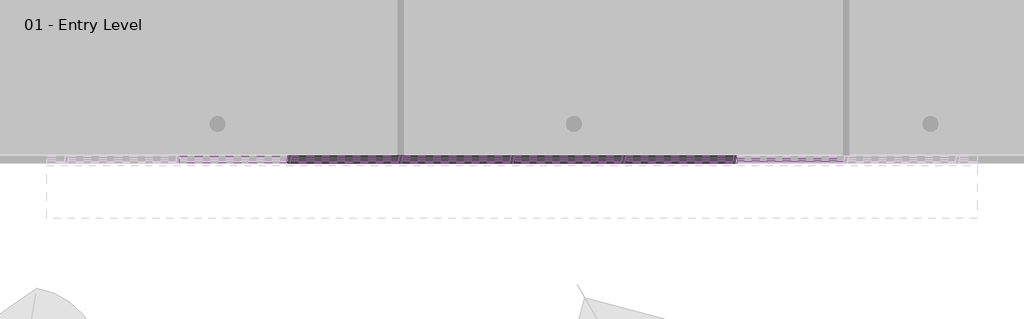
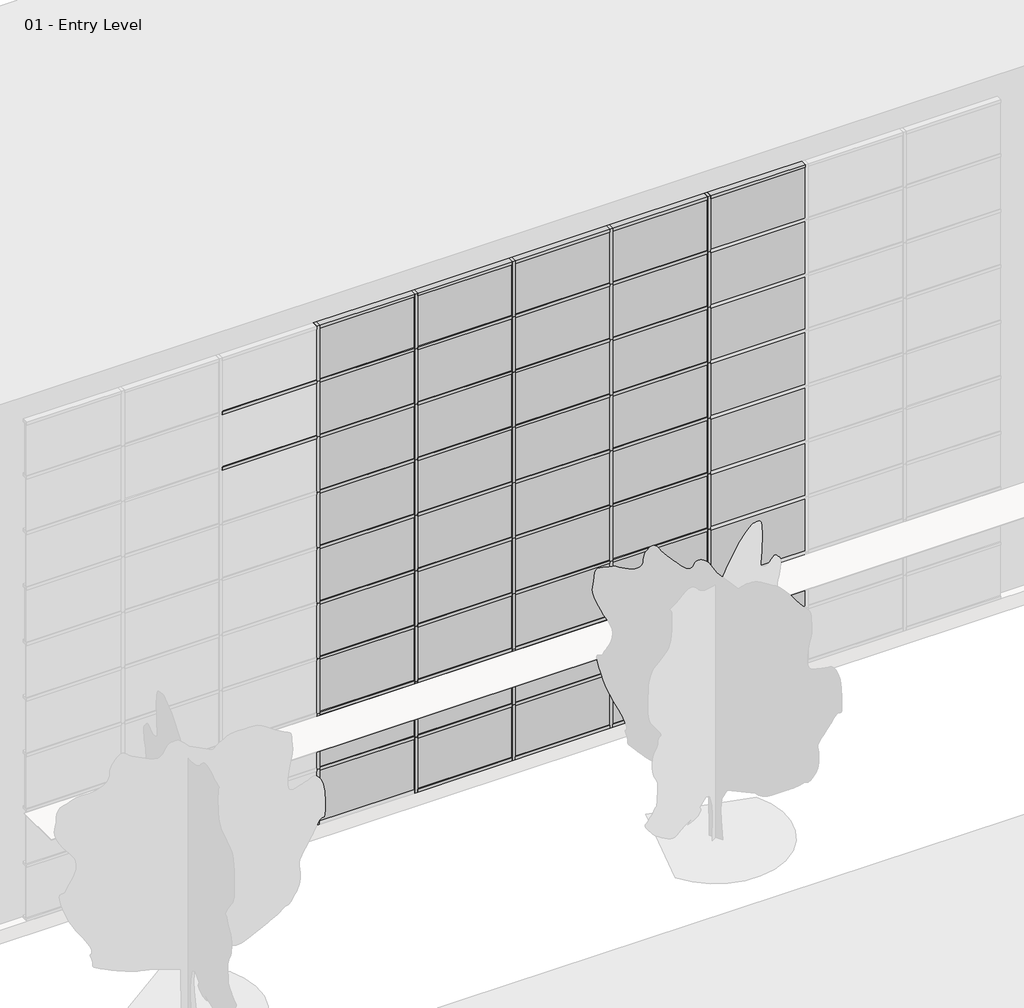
# One storey, part 3 of 34: 88 members, 45 plates.
"""IFC4 building model written with IfcOpenShell, lengths in millimetres."""

from ifc_helpers import new_model, si_unit, origin, place, context, project, spatial, transform, mapped, element, save
from components import member_2b49869a, member_391b434c, member_9e90ae50, system_panel_glazed_1b9d6098, system_panel_glazed_70da479d, system_panel_solid_b376696c, system_panel_solid_77e8b053

model = new_model("IFC4")

# Units and contexts
model_context = context("Model", 3, world=origin())
ifc_project = project(units=[si_unit("LENGTHUNIT", "METRE", prefix="MILLI")], contexts=[model_context])

# Site, building, storey
site = spatial("IfcSite", under=ifc_project)
building = spatial("IfcBuilding", under=site)
storey = spatial("IfcBuildingStorey", under=building, Name="01 - Entry Level", Elevation=0.0)

# Members
placement = place(None, origin())
member_shape = member_2b49869a(model_context)
element("IfcMember", 1, ObjectType="Rectangular Mullion : 2.5\" x 5\" rectangular", at=placement, inside=storey, context=model_context, shape_type="MappedRepresentation", body=[
    mapped(member_shape, transform((30595.2207476, -47.7, 9753.6), x_axis=(1.0, 0.0, 0.0), y_axis=(0.0, -1.0, 0.0), z_axis=(0.0, 0.0, -1.0))),
])
element("IfcMember", 2, ObjectType="Rectangular Mullion : 2.5\" x 5\" rectangular", at=placement, inside=storey, context=model_context, shape_type="MappedRepresentation", body=[
    mapped(member_shape, transform((32627.2207476, -47.7, 9753.6), x_axis=(1.0, 0.0, 0.0), y_axis=(0.0, -1.0, 0.0), z_axis=(0.0, 0.0, -1.0))),
])
element("IfcMember", 3, ObjectType="Rectangular Mullion : 2.5\" x 5\" rectangular", at=placement, inside=storey, context=model_context, shape_type="MappedRepresentation", body=[
    mapped(member_shape, transform((34659.2207476, -47.7, 9753.6), x_axis=(1.0, 0.0, 0.0), y_axis=(0.0, -1.0, 0.0), z_axis=(0.0, 0.0, -1.0))),
])
element("IfcMember", 4, ObjectType="Rectangular Mullion : 2.5\" x 5\" rectangular", at=placement, inside=storey, context=model_context, shape_type="MappedRepresentation", body=[
    mapped(member_shape, transform((36691.2207476, -47.7, 9753.6), x_axis=(1.0, 0.0, 0.0), y_axis=(0.0, -1.0, 0.0), z_axis=(0.0, 0.0, -1.0))),
])
element("IfcMember", 5, ObjectType="Rectangular Mullion : 2.5\" x 5\" rectangular", at=placement, inside=storey, context=model_context, shape_type="MappedRepresentation", body=[
    mapped(member_shape, transform((38723.2207476, -47.7, 9753.6), x_axis=(1.0, 0.0, 0.0), y_axis=(0.0, -1.0, 0.0), z_axis=(0.0, 0.0, -1.0))),
])
member_2_shape = member_391b434c(model_context)
element("IfcMember", 6, ObjectType="Rectangular Mullion : 2.5\" x 5\" rectangular", at=placement, inside=storey, context=model_context, shape_type="MappedRepresentation", body=[
    mapped(member_2_shape, transform((32595.4707476, -47.7, 10972.8), x_axis=(0.0, 0.0, 1.0), y_axis=(0.0, -1.0, 0.0), z_axis=(1.0, 0.0, 0.0))),
])
element("IfcMember", 7, ObjectType="Rectangular Mullion : 2.5\" x 5\" rectangular", at=placement, inside=storey, context=model_context, shape_type="MappedRepresentation", body=[
    mapped(member_2_shape, transform((34627.4707476, -47.7, 10972.8), x_axis=(0.0, 0.0, 1.0), y_axis=(0.0, -1.0, 0.0), z_axis=(1.0, 0.0, 0.0))),
])
element("IfcMember", 8, ObjectType="Rectangular Mullion : 2.5\" x 5\" rectangular", at=placement, inside=storey, context=model_context, shape_type="MappedRepresentation", body=[
    mapped(member_2_shape, transform((36659.4707476, -47.7, 10972.8), x_axis=(0.0, 0.0, 1.0), y_axis=(0.0, -1.0, 0.0), z_axis=(1.0, 0.0, 0.0))),
])
element("IfcMember", 9, ObjectType="Rectangular Mullion : 2.5\" x 5\" rectangular", at=placement, inside=storey, context=model_context, shape_type="MappedRepresentation", body=[
    mapped(member_2_shape, transform((38691.4707476, -47.7, 10972.8), x_axis=(0.0, 0.0, 1.0), y_axis=(0.0, -1.0, 0.0), z_axis=(1.0, 0.0, 0.0))),
])
element("IfcMember", 10, ObjectType="Rectangular Mullion : 2.5\" x 5\" rectangular", at=placement, inside=storey, context=model_context, shape_type="MappedRepresentation", body=[
    mapped(member_2_shape, transform((40723.4707476, -47.7, 10972.8), x_axis=(0.0, 0.0, 1.0), y_axis=(0.0, -1.0, 0.0), z_axis=(1.0, 0.0, 0.0))),
])
element("IfcMember", 11, ObjectType="Rectangular Mullion : 2.5\" x 5\" rectangular", at=placement, inside=storey, context=model_context, shape_type="MappedRepresentation", body=[
    mapped(member_2_shape, transform((32658.9707476, -47.7, 0.0), x_axis=(0.0, 0.0, -1.0), y_axis=(0.0, -1.0, 0.0), z_axis=(-1.0, 0.0, 0.0))),
])
element("IfcMember", 12, ObjectType="Rectangular Mullion : 2.5\" x 5\" rectangular", at=placement, inside=storey, context=model_context, shape_type="MappedRepresentation", body=[
    mapped(member_2_shape, transform((34690.9707476, -47.7, 0.0), x_axis=(0.0, 0.0, -1.0), y_axis=(0.0, -1.0, 0.0), z_axis=(-1.0, 0.0, 0.0))),
])
element("IfcMember", 13, ObjectType="Rectangular Mullion : 2.5\" x 5\" rectangular", at=placement, inside=storey, context=model_context, shape_type="MappedRepresentation", body=[
    mapped(member_2_shape, transform((36722.9707476, -47.7, 0.0), x_axis=(0.0, 0.0, -1.0), y_axis=(0.0, -1.0, 0.0), z_axis=(-1.0, 0.0, 0.0))),
])
element("IfcMember", 14, ObjectType="Rectangular Mullion : 2.5\" x 5\" rectangular", at=placement, inside=storey, context=model_context, shape_type="MappedRepresentation", body=[
    mapped(member_2_shape, transform((38754.9707476, -47.7, 0.0), x_axis=(0.0, 0.0, -1.0), y_axis=(0.0, -1.0, 0.0), z_axis=(-1.0, 0.0, 0.0))),
])
member_3_shape = member_9e90ae50(model_context)
element("IfcMember", 15, ObjectType="Rectangular Mullion : 2.5\" x 5\" rectangular", at=placement, inside=storey, context=model_context, shape_type="MappedRepresentation", body=[
    mapped(member_3_shape, transform((32595.4707476, -47.7, 1219.2), x_axis=(0.0, 0.0, 1.0), y_axis=(0.0, -1.0, 0.0), z_axis=(1.0, 0.0, 0.0))),
])
element("IfcMember", 16, ObjectType="Rectangular Mullion : 2.5\" x 5\" rectangular", at=placement, inside=storey, context=model_context, shape_type="MappedRepresentation", body=[
    mapped(member_3_shape, transform((34627.4707476, -47.7, 1219.2), x_axis=(0.0, 0.0, 1.0), y_axis=(0.0, -1.0, 0.0), z_axis=(1.0, 0.0, 0.0))),
])
element("IfcMember", 17, ObjectType="Rectangular Mullion : 2.5\" x 5\" rectangular", at=placement, inside=storey, context=model_context, shape_type="MappedRepresentation", body=[
    mapped(member_3_shape, transform((36659.4707476, -47.7, 1219.2), x_axis=(0.0, 0.0, 1.0), y_axis=(0.0, -1.0, 0.0), z_axis=(1.0, 0.0, 0.0))),
])
element("IfcMember", 18, ObjectType="Rectangular Mullion : 2.5\" x 5\" rectangular", at=placement, inside=storey, context=model_context, shape_type="MappedRepresentation", body=[
    mapped(member_3_shape, transform((38691.4707476, -47.7, 1219.2), x_axis=(0.0, 0.0, 1.0), y_axis=(0.0, -1.0, 0.0), z_axis=(1.0, 0.0, 0.0))),
])
element("IfcMember", 19, ObjectType="Rectangular Mullion : 2.5\" x 5\" rectangular", at=placement, inside=storey, context=model_context, shape_type="MappedRepresentation", body=[
    mapped(member_3_shape, transform((32595.4707476, -47.7, 2438.4), x_axis=(0.0, 0.0, 1.0), y_axis=(0.0, -1.0, 0.0), z_axis=(1.0, 0.0, 0.0))),
])
element("IfcMember", 20, ObjectType="Rectangular Mullion : 2.5\" x 5\" rectangular", at=placement, inside=storey, context=model_context, shape_type="MappedRepresentation", body=[
    mapped(member_3_shape, transform((34627.4707476, -47.7, 2438.4), x_axis=(0.0, 0.0, 1.0), y_axis=(0.0, -1.0, 0.0), z_axis=(1.0, 0.0, 0.0))),
])
element("IfcMember", 21, ObjectType="Rectangular Mullion : 2.5\" x 5\" rectangular", at=placement, inside=storey, context=model_context, shape_type="MappedRepresentation", body=[
    mapped(member_3_shape, transform((36659.4707476, -47.7, 2438.4), x_axis=(0.0, 0.0, 1.0), y_axis=(0.0, -1.0, 0.0), z_axis=(1.0, 0.0, 0.0))),
])
element("IfcMember", 22, ObjectType="Rectangular Mullion : 2.5\" x 5\" rectangular", at=placement, inside=storey, context=model_context, shape_type="MappedRepresentation", body=[
    mapped(member_3_shape, transform((38691.4707476, -47.7, 2438.4), x_axis=(0.0, 0.0, 1.0), y_axis=(0.0, -1.0, 0.0), z_axis=(1.0, 0.0, 0.0))),
])
element("IfcMember", 23, ObjectType="Rectangular Mullion : 2.5\" x 5\" rectangular", at=placement, inside=storey, context=model_context, shape_type="MappedRepresentation", body=[
    mapped(member_3_shape, transform((32595.4707476, -47.7, 3657.6), x_axis=(0.0, 0.0, 1.0), y_axis=(0.0, -1.0, 0.0), z_axis=(1.0, 0.0, 0.0))),
])
element("IfcMember", 24, ObjectType="Rectangular Mullion : 2.5\" x 5\" rectangular", at=placement, inside=storey, context=model_context, shape_type="MappedRepresentation", body=[
    mapped(member_3_shape, transform((34627.4707476, -47.7, 3657.6), x_axis=(0.0, 0.0, 1.0), y_axis=(0.0, -1.0, 0.0), z_axis=(1.0, 0.0, 0.0))),
])
element("IfcMember", 25, ObjectType="Rectangular Mullion : 2.5\" x 5\" rectangular", at=placement, inside=storey, context=model_context, shape_type="MappedRepresentation", body=[
    mapped(member_3_shape, transform((36659.4707476, -47.7, 3657.6), x_axis=(0.0, 0.0, 1.0), y_axis=(0.0, -1.0, 0.0), z_axis=(1.0, 0.0, 0.0))),
])
element("IfcMember", 26, ObjectType="Rectangular Mullion : 2.5\" x 5\" rectangular", at=placement, inside=storey, context=model_context, shape_type="MappedRepresentation", body=[
    mapped(member_3_shape, transform((38691.4707476, -47.7, 3657.6), x_axis=(0.0, 0.0, 1.0), y_axis=(0.0, -1.0, 0.0), z_axis=(1.0, 0.0, 0.0))),
])
element("IfcMember", 27, ObjectType="Rectangular Mullion : 2.5\" x 5\" rectangular", at=placement, inside=storey, context=model_context, shape_type="MappedRepresentation", body=[
    mapped(member_3_shape, transform((32595.4707476, -47.7, 4876.8), x_axis=(0.0, 0.0, 1.0), y_axis=(0.0, -1.0, 0.0), z_axis=(1.0, 0.0, 0.0))),
])
element("IfcMember", 28, ObjectType="Rectangular Mullion : 2.5\" x 5\" rectangular", at=placement, inside=storey, context=model_context, shape_type="MappedRepresentation", body=[
    mapped(member_3_shape, transform((34627.4707476, -47.7, 4876.8), x_axis=(0.0, 0.0, 1.0), y_axis=(0.0, -1.0, 0.0), z_axis=(1.0, 0.0, 0.0))),
])
element("IfcMember", 29, ObjectType="Rectangular Mullion : 2.5\" x 5\" rectangular", at=placement, inside=storey, context=model_context, shape_type="MappedRepresentation", body=[
    mapped(member_3_shape, transform((36659.4707476, -47.7, 4876.8), x_axis=(0.0, 0.0, 1.0), y_axis=(0.0, -1.0, 0.0), z_axis=(1.0, 0.0, 0.0))),
])
element("IfcMember", 30, ObjectType="Rectangular Mullion : 2.5\" x 5\" rectangular", at=placement, inside=storey, context=model_context, shape_type="MappedRepresentation", body=[
    mapped(member_3_shape, transform((38691.4707476, -47.7, 4876.8), x_axis=(0.0, 0.0, 1.0), y_axis=(0.0, -1.0, 0.0), z_axis=(1.0, 0.0, 0.0))),
])
element("IfcMember", 31, ObjectType="Rectangular Mullion : 2.5\" x 5\" rectangular", at=placement, inside=storey, context=model_context, shape_type="MappedRepresentation", body=[
    mapped(member_3_shape, transform((32595.4707476, -47.7, 6096.0), x_axis=(0.0, 0.0, 1.0), y_axis=(0.0, -1.0, 0.0), z_axis=(1.0, 0.0, 0.0))),
])
element("IfcMember", 32, ObjectType="Rectangular Mullion : 2.5\" x 5\" rectangular", at=placement, inside=storey, context=model_context, shape_type="MappedRepresentation", body=[
    mapped(member_3_shape, transform((34627.4707476, -47.7, 6096.0), x_axis=(0.0, 0.0, 1.0), y_axis=(0.0, -1.0, 0.0), z_axis=(1.0, 0.0, 0.0))),
])
element("IfcMember", 33, ObjectType="Rectangular Mullion : 2.5\" x 5\" rectangular", at=placement, inside=storey, context=model_context, shape_type="MappedRepresentation", body=[
    mapped(member_3_shape, transform((36659.4707476, -47.7, 6096.0), x_axis=(0.0, 0.0, 1.0), y_axis=(0.0, -1.0, 0.0), z_axis=(1.0, 0.0, 0.0))),
])
element("IfcMember", 34, ObjectType="Rectangular Mullion : 2.5\" x 5\" rectangular", at=placement, inside=storey, context=model_context, shape_type="MappedRepresentation", body=[
    mapped(member_3_shape, transform((38691.4707476, -47.7, 6096.0), x_axis=(0.0, 0.0, 1.0), y_axis=(0.0, -1.0, 0.0), z_axis=(1.0, 0.0, 0.0))),
])
element("IfcMember", 35, ObjectType="Rectangular Mullion : 2.5\" x 5\" rectangular", at=placement, inside=storey, context=model_context, shape_type="MappedRepresentation", body=[
    mapped(member_3_shape, transform((32595.4707476, -47.7, 7315.2), x_axis=(0.0, 0.0, 1.0), y_axis=(0.0, -1.0, 0.0), z_axis=(1.0, 0.0, 0.0))),
])
element("IfcMember", 36, ObjectType="Rectangular Mullion : 2.5\" x 5\" rectangular", at=placement, inside=storey, context=model_context, shape_type="MappedRepresentation", body=[
    mapped(member_3_shape, transform((34627.4707476, -47.7, 7315.2), x_axis=(0.0, 0.0, 1.0), y_axis=(0.0, -1.0, 0.0), z_axis=(1.0, 0.0, 0.0))),
])
element("IfcMember", 37, ObjectType="Rectangular Mullion : 2.5\" x 5\" rectangular", at=placement, inside=storey, context=model_context, shape_type="MappedRepresentation", body=[
    mapped(member_3_shape, transform((36659.4707476, -47.7, 7315.2), x_axis=(0.0, 0.0, 1.0), y_axis=(0.0, -1.0, 0.0), z_axis=(1.0, 0.0, 0.0))),
])
element("IfcMember", 38, ObjectType="Rectangular Mullion : 2.5\" x 5\" rectangular", at=placement, inside=storey, context=model_context, shape_type="MappedRepresentation", body=[
    mapped(member_3_shape, transform((38691.4707476, -47.7, 7315.2), x_axis=(0.0, 0.0, 1.0), y_axis=(0.0, -1.0, 0.0), z_axis=(1.0, 0.0, 0.0))),
])
element("IfcMember", 39, ObjectType="Rectangular Mullion : 2.5\" x 5\" rectangular", at=placement, inside=storey, context=model_context, shape_type="MappedRepresentation", body=[
    mapped(member_3_shape, transform((30563.4707476, -47.7, 8534.4), x_axis=(0.0, 0.0, 1.0), y_axis=(0.0, -1.0, 0.0), z_axis=(1.0, 0.0, 0.0))),
])
element("IfcMember", 40, ObjectType="Rectangular Mullion : 2.5\" x 5\" rectangular", at=placement, inside=storey, context=model_context, shape_type="MappedRepresentation", body=[
    mapped(member_3_shape, transform((32595.4707476, -47.7, 8534.4), x_axis=(0.0, 0.0, 1.0), y_axis=(0.0, -1.0, 0.0), z_axis=(1.0, 0.0, 0.0))),
])
element("IfcMember", 41, ObjectType="Rectangular Mullion : 2.5\" x 5\" rectangular", at=placement, inside=storey, context=model_context, shape_type="MappedRepresentation", body=[
    mapped(member_3_shape, transform((34627.4707476, -47.7, 8534.4), x_axis=(0.0, 0.0, 1.0), y_axis=(0.0, -1.0, 0.0), z_axis=(1.0, 0.0, 0.0))),
])
element("IfcMember", 42, ObjectType="Rectangular Mullion : 2.5\" x 5\" rectangular", at=placement, inside=storey, context=model_context, shape_type="MappedRepresentation", body=[
    mapped(member_3_shape, transform((36659.4707476, -47.7, 8534.4), x_axis=(0.0, 0.0, 1.0), y_axis=(0.0, -1.0, 0.0), z_axis=(1.0, 0.0, 0.0))),
])
element("IfcMember", 43, ObjectType="Rectangular Mullion : 2.5\" x 5\" rectangular", at=placement, inside=storey, context=model_context, shape_type="MappedRepresentation", body=[
    mapped(member_3_shape, transform((38691.4707476, -47.7, 8534.4), x_axis=(0.0, 0.0, 1.0), y_axis=(0.0, -1.0, 0.0), z_axis=(1.0, 0.0, 0.0))),
])
element("IfcMember", 44, ObjectType="Rectangular Mullion : 2.5\" x 5\" rectangular", at=placement, inside=storey, context=model_context, shape_type="MappedRepresentation", body=[
    mapped(member_3_shape, transform((30563.4707476, -47.7, 9753.6), x_axis=(0.0, 0.0, 1.0), y_axis=(0.0, -1.0, 0.0), z_axis=(1.0, 0.0, 0.0))),
])
element("IfcMember", 45, ObjectType="Rectangular Mullion : 2.5\" x 5\" rectangular", at=placement, inside=storey, context=model_context, shape_type="MappedRepresentation", body=[
    mapped(member_3_shape, transform((32595.4707476, -47.7, 9753.6), x_axis=(0.0, 0.0, 1.0), y_axis=(0.0, -1.0, 0.0), z_axis=(1.0, 0.0, 0.0))),
])
element("IfcMember", 46, ObjectType="Rectangular Mullion : 2.5\" x 5\" rectangular", at=placement, inside=storey, context=model_context, shape_type="MappedRepresentation", body=[
    mapped(member_3_shape, transform((34627.4707476, -47.7, 9753.6), x_axis=(0.0, 0.0, 1.0), y_axis=(0.0, -1.0, 0.0), z_axis=(1.0, 0.0, 0.0))),
])
element("IfcMember", 47, ObjectType="Rectangular Mullion : 2.5\" x 5\" rectangular", at=placement, inside=storey, context=model_context, shape_type="MappedRepresentation", body=[
    mapped(member_3_shape, transform((36659.4707476, -47.7, 9753.6), x_axis=(0.0, 0.0, 1.0), y_axis=(0.0, -1.0, 0.0), z_axis=(1.0, 0.0, 0.0))),
])
element("IfcMember", 48, ObjectType="Rectangular Mullion : 2.5\" x 5\" rectangular", at=placement, inside=storey, context=model_context, shape_type="MappedRepresentation", body=[
    mapped(member_3_shape, transform((38691.4707476, -47.7, 9753.6), x_axis=(0.0, 0.0, 1.0), y_axis=(0.0, -1.0, 0.0), z_axis=(1.0, 0.0, 0.0))),
])
element("IfcMember", 49, ObjectType="Rectangular Mullion : 2.5\" x 5\" rectangular", at=placement, inside=storey, context=model_context, shape_type="MappedRepresentation", body=[
    mapped(member_shape, transform((30595.2207476, -47.7, 0.0), x_axis=(1.0, 0.0, 0.0), y_axis=(0.0, -1.0, 0.0), z_axis=(0.0, 0.0, -1.0))),
])
element("IfcMember", 50, ObjectType="Rectangular Mullion : 2.5\" x 5\" rectangular", at=placement, inside=storey, context=model_context, shape_type="MappedRepresentation", body=[
    mapped(member_shape, transform((32627.2207476, -47.7, 0.0), x_axis=(1.0, 0.0, 0.0), y_axis=(0.0, -1.0, 0.0), z_axis=(0.0, 0.0, -1.0))),
])
element("IfcMember", 51, ObjectType="Rectangular Mullion : 2.5\" x 5\" rectangular", at=placement, inside=storey, context=model_context, shape_type="MappedRepresentation", body=[
    mapped(member_shape, transform((34659.2207476, -47.7, 0.0), x_axis=(1.0, 0.0, 0.0), y_axis=(0.0, -1.0, 0.0), z_axis=(0.0, 0.0, -1.0))),
])
element("IfcMember", 52, ObjectType="Rectangular Mullion : 2.5\" x 5\" rectangular", at=placement, inside=storey, context=model_context, shape_type="MappedRepresentation", body=[
    mapped(member_shape, transform((36691.2207476, -47.7, 0.0), x_axis=(1.0, 0.0, 0.0), y_axis=(0.0, -1.0, 0.0), z_axis=(0.0, 0.0, -1.0))),
])
element("IfcMember", 53, ObjectType="Rectangular Mullion : 2.5\" x 5\" rectangular", at=placement, inside=storey, context=model_context, shape_type="MappedRepresentation", body=[
    mapped(member_shape, transform((38723.2207476, -47.7, 0.0), x_axis=(1.0, 0.0, 0.0), y_axis=(0.0, -1.0, 0.0), z_axis=(0.0, 0.0, -1.0))),
])
element("IfcMember", 54, ObjectType="Rectangular Mullion : 2.5\" x 5\" rectangular", at=placement, inside=storey, context=model_context, shape_type="MappedRepresentation", body=[
    mapped(member_shape, transform((30595.2207476, -47.7, 1219.2), x_axis=(1.0, 0.0, 0.0), y_axis=(0.0, -1.0, 0.0), z_axis=(0.0, 0.0, -1.0))),
])
element("IfcMember", 55, ObjectType="Rectangular Mullion : 2.5\" x 5\" rectangular", at=placement, inside=storey, context=model_context, shape_type="MappedRepresentation", body=[
    mapped(member_shape, transform((32627.2207476, -47.7, 1219.2), x_axis=(1.0, 0.0, 0.0), y_axis=(0.0, -1.0, 0.0), z_axis=(0.0, 0.0, -1.0))),
])
element("IfcMember", 56, ObjectType="Rectangular Mullion : 2.5\" x 5\" rectangular", at=placement, inside=storey, context=model_context, shape_type="MappedRepresentation", body=[
    mapped(member_shape, transform((34659.2207476, -47.7, 1219.2), x_axis=(1.0, 0.0, 0.0), y_axis=(0.0, -1.0, 0.0), z_axis=(0.0, 0.0, -1.0))),
])
element("IfcMember", 57, ObjectType="Rectangular Mullion : 2.5\" x 5\" rectangular", at=placement, inside=storey, context=model_context, shape_type="MappedRepresentation", body=[
    mapped(member_shape, transform((36691.2207476, -47.7, 1219.2), x_axis=(1.0, 0.0, 0.0), y_axis=(0.0, -1.0, 0.0), z_axis=(0.0, 0.0, -1.0))),
])
element("IfcMember", 58, ObjectType="Rectangular Mullion : 2.5\" x 5\" rectangular", at=placement, inside=storey, context=model_context, shape_type="MappedRepresentation", body=[
    mapped(member_shape, transform((38723.2207476, -47.7, 1219.2), x_axis=(1.0, 0.0, 0.0), y_axis=(0.0, -1.0, 0.0), z_axis=(0.0, 0.0, -1.0))),
])
element("IfcMember", 59, ObjectType="Rectangular Mullion : 2.5\" x 5\" rectangular", at=placement, inside=storey, context=model_context, shape_type="MappedRepresentation", body=[
    mapped(member_shape, transform((30595.2207476, -47.7, 2438.4), x_axis=(1.0, 0.0, 0.0), y_axis=(0.0, -1.0, 0.0), z_axis=(0.0, 0.0, -1.0))),
])
element("IfcMember", 60, ObjectType="Rectangular Mullion : 2.5\" x 5\" rectangular", at=placement, inside=storey, context=model_context, shape_type="MappedRepresentation", body=[
    mapped(member_shape, transform((32627.2207476, -47.7, 2438.4), x_axis=(1.0, 0.0, 0.0), y_axis=(0.0, -1.0, 0.0), z_axis=(0.0, 0.0, -1.0))),
])
element("IfcMember", 61, ObjectType="Rectangular Mullion : 2.5\" x 5\" rectangular", at=placement, inside=storey, context=model_context, shape_type="MappedRepresentation", body=[
    mapped(member_shape, transform((34659.2207476, -47.7, 2438.4), x_axis=(1.0, 0.0, 0.0), y_axis=(0.0, -1.0, 0.0), z_axis=(0.0, 0.0, -1.0))),
])
element("IfcMember", 62, ObjectType="Rectangular Mullion : 2.5\" x 5\" rectangular", at=placement, inside=storey, context=model_context, shape_type="MappedRepresentation", body=[
    mapped(member_shape, transform((36691.2207476, -47.7, 2438.4), x_axis=(1.0, 0.0, 0.0), y_axis=(0.0, -1.0, 0.0), z_axis=(0.0, 0.0, -1.0))),
])
element("IfcMember", 63, ObjectType="Rectangular Mullion : 2.5\" x 5\" rectangular", at=placement, inside=storey, context=model_context, shape_type="MappedRepresentation", body=[
    mapped(member_shape, transform((38723.2207476, -47.7, 2438.4), x_axis=(1.0, 0.0, 0.0), y_axis=(0.0, -1.0, 0.0), z_axis=(0.0, 0.0, -1.0))),
])
element("IfcMember", 64, ObjectType="Rectangular Mullion : 2.5\" x 5\" rectangular", at=placement, inside=storey, context=model_context, shape_type="MappedRepresentation", body=[
    mapped(member_shape, transform((30595.2207476, -47.7, 3657.6), x_axis=(1.0, 0.0, 0.0), y_axis=(0.0, -1.0, 0.0), z_axis=(0.0, 0.0, -1.0))),
])
element("IfcMember", 65, ObjectType="Rectangular Mullion : 2.5\" x 5\" rectangular", at=placement, inside=storey, context=model_context, shape_type="MappedRepresentation", body=[
    mapped(member_shape, transform((32627.2207476, -47.7, 3657.6), x_axis=(1.0, 0.0, 0.0), y_axis=(0.0, -1.0, 0.0), z_axis=(0.0, 0.0, -1.0))),
])
element("IfcMember", 66, ObjectType="Rectangular Mullion : 2.5\" x 5\" rectangular", at=placement, inside=storey, context=model_context, shape_type="MappedRepresentation", body=[
    mapped(member_shape, transform((34659.2207476, -47.7, 3657.6), x_axis=(1.0, 0.0, 0.0), y_axis=(0.0, -1.0, 0.0), z_axis=(0.0, 0.0, -1.0))),
])
element("IfcMember", 67, ObjectType="Rectangular Mullion : 2.5\" x 5\" rectangular", at=placement, inside=storey, context=model_context, shape_type="MappedRepresentation", body=[
    mapped(member_shape, transform((36691.2207476, -47.7, 3657.6), x_axis=(1.0, 0.0, 0.0), y_axis=(0.0, -1.0, 0.0), z_axis=(0.0, 0.0, -1.0))),
])
element("IfcMember", 68, ObjectType="Rectangular Mullion : 2.5\" x 5\" rectangular", at=placement, inside=storey, context=model_context, shape_type="MappedRepresentation", body=[
    mapped(member_shape, transform((38723.2207476, -47.7, 3657.6), x_axis=(1.0, 0.0, 0.0), y_axis=(0.0, -1.0, 0.0), z_axis=(0.0, 0.0, -1.0))),
])
element("IfcMember", 69, ObjectType="Rectangular Mullion : 2.5\" x 5\" rectangular", at=placement, inside=storey, context=model_context, shape_type="MappedRepresentation", body=[
    mapped(member_shape, transform((30595.2207476, -47.7, 4876.8), x_axis=(1.0, 0.0, 0.0), y_axis=(0.0, -1.0, 0.0), z_axis=(0.0, 0.0, -1.0))),
])
element("IfcMember", 70, ObjectType="Rectangular Mullion : 2.5\" x 5\" rectangular", at=placement, inside=storey, context=model_context, shape_type="MappedRepresentation", body=[
    mapped(member_shape, transform((32627.2207476, -47.7, 4876.8), x_axis=(1.0, 0.0, 0.0), y_axis=(0.0, -1.0, 0.0), z_axis=(0.0, 0.0, -1.0))),
])
element("IfcMember", 71, ObjectType="Rectangular Mullion : 2.5\" x 5\" rectangular", at=placement, inside=storey, context=model_context, shape_type="MappedRepresentation", body=[
    mapped(member_shape, transform((34659.2207476, -47.7, 4876.8), x_axis=(1.0, 0.0, 0.0), y_axis=(0.0, -1.0, 0.0), z_axis=(0.0, 0.0, -1.0))),
])
element("IfcMember", 72, ObjectType="Rectangular Mullion : 2.5\" x 5\" rectangular", at=placement, inside=storey, context=model_context, shape_type="MappedRepresentation", body=[
    mapped(member_shape, transform((36691.2207476, -47.7, 4876.8), x_axis=(1.0, 0.0, 0.0), y_axis=(0.0, -1.0, 0.0), z_axis=(0.0, 0.0, -1.0))),
])
element("IfcMember", 73, ObjectType="Rectangular Mullion : 2.5\" x 5\" rectangular", at=placement, inside=storey, context=model_context, shape_type="MappedRepresentation", body=[
    mapped(member_shape, transform((38723.2207476, -47.7, 4876.8), x_axis=(1.0, 0.0, 0.0), y_axis=(0.0, -1.0, 0.0), z_axis=(0.0, 0.0, -1.0))),
])
element("IfcMember", 74, ObjectType="Rectangular Mullion : 2.5\" x 5\" rectangular", at=placement, inside=storey, context=model_context, shape_type="MappedRepresentation", body=[
    mapped(member_shape, transform((30595.2207476, -47.7, 6096.0), x_axis=(1.0, 0.0, 0.0), y_axis=(0.0, -1.0, 0.0), z_axis=(0.0, 0.0, -1.0))),
])
element("IfcMember", 75, ObjectType="Rectangular Mullion : 2.5\" x 5\" rectangular", at=placement, inside=storey, context=model_context, shape_type="MappedRepresentation", body=[
    mapped(member_shape, transform((32627.2207476, -47.7, 6096.0), x_axis=(1.0, 0.0, 0.0), y_axis=(0.0, -1.0, 0.0), z_axis=(0.0, 0.0, -1.0))),
])
element("IfcMember", 76, ObjectType="Rectangular Mullion : 2.5\" x 5\" rectangular", at=placement, inside=storey, context=model_context, shape_type="MappedRepresentation", body=[
    mapped(member_shape, transform((34659.2207476, -47.7, 6096.0), x_axis=(1.0, 0.0, 0.0), y_axis=(0.0, -1.0, 0.0), z_axis=(0.0, 0.0, -1.0))),
])
element("IfcMember", 77, ObjectType="Rectangular Mullion : 2.5\" x 5\" rectangular", at=placement, inside=storey, context=model_context, shape_type="MappedRepresentation", body=[
    mapped(member_shape, transform((36691.2207476, -47.7, 6096.0), x_axis=(1.0, 0.0, 0.0), y_axis=(0.0, -1.0, 0.0), z_axis=(0.0, 0.0, -1.0))),
])
element("IfcMember", 78, ObjectType="Rectangular Mullion : 2.5\" x 5\" rectangular", at=placement, inside=storey, context=model_context, shape_type="MappedRepresentation", body=[
    mapped(member_shape, transform((38723.2207476, -47.7, 6096.0), x_axis=(1.0, 0.0, 0.0), y_axis=(0.0, -1.0, 0.0), z_axis=(0.0, 0.0, -1.0))),
])
element("IfcMember", 79, ObjectType="Rectangular Mullion : 2.5\" x 5\" rectangular", at=placement, inside=storey, context=model_context, shape_type="MappedRepresentation", body=[
    mapped(member_shape, transform((30595.2207476, -47.7, 7315.2), x_axis=(1.0, 0.0, 0.0), y_axis=(0.0, -1.0, 0.0), z_axis=(0.0, 0.0, -1.0))),
])
element("IfcMember", 80, ObjectType="Rectangular Mullion : 2.5\" x 5\" rectangular", at=placement, inside=storey, context=model_context, shape_type="MappedRepresentation", body=[
    mapped(member_shape, transform((32627.2207476, -47.7, 7315.2), x_axis=(1.0, 0.0, 0.0), y_axis=(0.0, -1.0, 0.0), z_axis=(0.0, 0.0, -1.0))),
])
element("IfcMember", 81, ObjectType="Rectangular Mullion : 2.5\" x 5\" rectangular", at=placement, inside=storey, context=model_context, shape_type="MappedRepresentation", body=[
    mapped(member_shape, transform((34659.2207476, -47.7, 7315.2), x_axis=(1.0, 0.0, 0.0), y_axis=(0.0, -1.0, 0.0), z_axis=(0.0, 0.0, -1.0))),
])
element("IfcMember", 82, ObjectType="Rectangular Mullion : 2.5\" x 5\" rectangular", at=placement, inside=storey, context=model_context, shape_type="MappedRepresentation", body=[
    mapped(member_shape, transform((36691.2207476, -47.7, 7315.2), x_axis=(1.0, 0.0, 0.0), y_axis=(0.0, -1.0, 0.0), z_axis=(0.0, 0.0, -1.0))),
])
element("IfcMember", 83, ObjectType="Rectangular Mullion : 2.5\" x 5\" rectangular", at=placement, inside=storey, context=model_context, shape_type="MappedRepresentation", body=[
    mapped(member_shape, transform((38723.2207476, -47.7, 7315.2), x_axis=(1.0, 0.0, 0.0), y_axis=(0.0, -1.0, 0.0), z_axis=(0.0, 0.0, -1.0))),
])
element("IfcMember", 84, ObjectType="Rectangular Mullion : 2.5\" x 5\" rectangular", at=placement, inside=storey, context=model_context, shape_type="MappedRepresentation", body=[
    mapped(member_shape, transform((30595.2207476, -47.7, 8534.4), x_axis=(1.0, 0.0, 0.0), y_axis=(0.0, -1.0, 0.0), z_axis=(0.0, 0.0, -1.0))),
])
element("IfcMember", 85, ObjectType="Rectangular Mullion : 2.5\" x 5\" rectangular", at=placement, inside=storey, context=model_context, shape_type="MappedRepresentation", body=[
    mapped(member_shape, transform((32627.2207476, -47.7, 8534.4), x_axis=(1.0, 0.0, 0.0), y_axis=(0.0, -1.0, 0.0), z_axis=(0.0, 0.0, -1.0))),
])
element("IfcMember", 86, ObjectType="Rectangular Mullion : 2.5\" x 5\" rectangular", at=placement, inside=storey, context=model_context, shape_type="MappedRepresentation", body=[
    mapped(member_shape, transform((34659.2207476, -47.7, 8534.4), x_axis=(1.0, 0.0, 0.0), y_axis=(0.0, -1.0, 0.0), z_axis=(0.0, 0.0, -1.0))),
])
element("IfcMember", 87, ObjectType="Rectangular Mullion : 2.5\" x 5\" rectangular", at=placement, inside=storey, context=model_context, shape_type="MappedRepresentation", body=[
    mapped(member_shape, transform((36691.2207476, -47.7, 8534.4), x_axis=(1.0, 0.0, 0.0), y_axis=(0.0, -1.0, 0.0), z_axis=(0.0, 0.0, -1.0))),
])
element("IfcMember", 88, ObjectType="Rectangular Mullion : 2.5\" x 5\" rectangular", at=placement, inside=storey, context=model_context, shape_type="MappedRepresentation", body=[
    mapped(member_shape, transform((38723.2207476, -47.7, 8534.4), x_axis=(1.0, 0.0, 0.0), y_axis=(0.0, -1.0, 0.0), z_axis=(0.0, 0.0, -1.0))),
])

# Plates
system_panel_glazed_shape = system_panel_glazed_1b9d6098(model_context)
element("IfcPlate", 89, ObjectType="System Panel : Glazed", at=placement, inside=storey, context=model_context, shape_type="MappedRepresentation", body=[
    mapped(system_panel_glazed_shape, transform((31611.2207476, -47.7, 63.5), x_axis=(1.0, 0.0, 0.0), y_axis=(0.0, 1.0, 0.0), z_axis=(0.0, 0.0, 1.0))),
])
element("IfcPlate", 90, ObjectType="System Panel : Glazed", at=placement, inside=storey, context=model_context, shape_type="MappedRepresentation", body=[
    mapped(system_panel_glazed_shape, transform((33643.2207476, -47.7, 63.5), x_axis=(1.0, 0.0, 0.0), y_axis=(0.0, 1.0, 0.0), z_axis=(0.0, 0.0, 1.0))),
])
element("IfcPlate", 91, ObjectType="System Panel : Glazed", at=placement, inside=storey, context=model_context, shape_type="MappedRepresentation", body=[
    mapped(system_panel_glazed_shape, transform((35675.2207476, -47.7, 63.5), x_axis=(1.0, 0.0, 0.0), y_axis=(0.0, 1.0, 0.0), z_axis=(0.0, 0.0, 1.0))),
])
element("IfcPlate", 92, ObjectType="System Panel : Glazed", at=placement, inside=storey, context=model_context, shape_type="MappedRepresentation", body=[
    mapped(system_panel_glazed_shape, transform((37707.2207476, -47.7, 63.5), x_axis=(1.0, 0.0, 0.0), y_axis=(0.0, 1.0, 0.0), z_axis=(0.0, 0.0, 1.0))),
])
element("IfcPlate", 93, ObjectType="System Panel : Glazed", at=placement, inside=storey, context=model_context, shape_type="MappedRepresentation", body=[
    mapped(system_panel_glazed_shape, transform((39739.2207476, -47.7, 63.5), x_axis=(1.0, 0.0, 0.0), y_axis=(0.0, 1.0, 0.0), z_axis=(0.0, 0.0, 1.0))),
])
system_panel_glazed_2_shape = system_panel_glazed_70da479d(model_context)
element("IfcPlate", 94, ObjectType="System Panel : Glazed", at=placement, inside=storey, context=model_context, shape_type="MappedRepresentation", body=[
    mapped(system_panel_glazed_2_shape, transform((31611.2207476, -47.7, 1250.95), x_axis=(1.0, 0.0, 0.0), y_axis=(0.0, 1.0, 0.0), z_axis=(0.0, 0.0, 1.0))),
])
element("IfcPlate", 95, ObjectType="System Panel : Glazed", at=placement, inside=storey, context=model_context, shape_type="MappedRepresentation", body=[
    mapped(system_panel_glazed_2_shape, transform((33643.2207476, -47.7, 1250.95), x_axis=(1.0, 0.0, 0.0), y_axis=(0.0, 1.0, 0.0), z_axis=(0.0, 0.0, 1.0))),
])
element("IfcPlate", 96, ObjectType="System Panel : Glazed", at=placement, inside=storey, context=model_context, shape_type="MappedRepresentation", body=[
    mapped(system_panel_glazed_2_shape, transform((35675.2207476, -47.7, 1250.95), x_axis=(1.0, 0.0, 0.0), y_axis=(0.0, 1.0, 0.0), z_axis=(0.0, 0.0, 1.0))),
])
element("IfcPlate", 97, ObjectType="System Panel : Glazed", at=placement, inside=storey, context=model_context, shape_type="MappedRepresentation", body=[
    mapped(system_panel_glazed_2_shape, transform((37707.2207476, -47.7, 1250.95), x_axis=(1.0, 0.0, 0.0), y_axis=(0.0, 1.0, 0.0), z_axis=(0.0, 0.0, 1.0))),
])
element("IfcPlate", 98, ObjectType="System Panel : Glazed", at=placement, inside=storey, context=model_context, shape_type="MappedRepresentation", body=[
    mapped(system_panel_glazed_2_shape, transform((39739.2207476, -47.7, 1250.95), x_axis=(1.0, 0.0, 0.0), y_axis=(0.0, 1.0, 0.0), z_axis=(0.0, 0.0, 1.0))),
])
element("IfcPlate", 99, ObjectType="System Panel : Glazed", at=placement, inside=storey, context=model_context, shape_type="MappedRepresentation", body=[
    mapped(system_panel_glazed_2_shape, transform((31611.2207476, -47.7, 3689.35), x_axis=(1.0, 0.0, 0.0), y_axis=(0.0, 1.0, 0.0), z_axis=(0.0, 0.0, 1.0))),
])
element("IfcPlate", 100, ObjectType="System Panel : Glazed", at=placement, inside=storey, context=model_context, shape_type="MappedRepresentation", body=[
    mapped(system_panel_glazed_2_shape, transform((33643.2207476, -47.7, 3689.35), x_axis=(1.0, 0.0, 0.0), y_axis=(0.0, 1.0, 0.0), z_axis=(0.0, 0.0, 1.0))),
])
element("IfcPlate", 101, ObjectType="System Panel : Glazed", at=placement, inside=storey, context=model_context, shape_type="MappedRepresentation", body=[
    mapped(system_panel_glazed_2_shape, transform((35675.2207476, -47.7, 3689.35), x_axis=(1.0, 0.0, 0.0), y_axis=(0.0, 1.0, 0.0), z_axis=(0.0, 0.0, 1.0))),
])
element("IfcPlate", 102, ObjectType="System Panel : Glazed", at=placement, inside=storey, context=model_context, shape_type="MappedRepresentation", body=[
    mapped(system_panel_glazed_2_shape, transform((37707.2207476, -47.7, 3689.35), x_axis=(1.0, 0.0, 0.0), y_axis=(0.0, 1.0, 0.0), z_axis=(0.0, 0.0, 1.0))),
])
element("IfcPlate", 103, ObjectType="System Panel : Glazed", at=placement, inside=storey, context=model_context, shape_type="MappedRepresentation", body=[
    mapped(system_panel_glazed_2_shape, transform((39739.2207476, -47.7, 3689.35), x_axis=(1.0, 0.0, 0.0), y_axis=(0.0, 1.0, 0.0), z_axis=(0.0, 0.0, 1.0))),
])
element("IfcPlate", 104, ObjectType="System Panel : Glazed", at=placement, inside=storey, context=model_context, shape_type="MappedRepresentation", body=[
    mapped(system_panel_glazed_2_shape, transform((31611.2207476, -47.7, 4908.55), x_axis=(1.0, 0.0, 0.0), y_axis=(0.0, 1.0, 0.0), z_axis=(0.0, 0.0, 1.0))),
])
element("IfcPlate", 105, ObjectType="System Panel : Glazed", at=placement, inside=storey, context=model_context, shape_type="MappedRepresentation", body=[
    mapped(system_panel_glazed_2_shape, transform((33643.2207476, -47.7, 4908.55), x_axis=(1.0, 0.0, 0.0), y_axis=(0.0, 1.0, 0.0), z_axis=(0.0, 0.0, 1.0))),
])
element("IfcPlate", 106, ObjectType="System Panel : Glazed", at=placement, inside=storey, context=model_context, shape_type="MappedRepresentation", body=[
    mapped(system_panel_glazed_2_shape, transform((35675.2207476, -47.7, 4908.55), x_axis=(1.0, 0.0, 0.0), y_axis=(0.0, 1.0, 0.0), z_axis=(0.0, 0.0, 1.0))),
])
element("IfcPlate", 107, ObjectType="System Panel : Glazed", at=placement, inside=storey, context=model_context, shape_type="MappedRepresentation", body=[
    mapped(system_panel_glazed_2_shape, transform((37707.2207476, -47.7, 4908.55), x_axis=(1.0, 0.0, 0.0), y_axis=(0.0, 1.0, 0.0), z_axis=(0.0, 0.0, 1.0))),
])
element("IfcPlate", 108, ObjectType="System Panel : Glazed", at=placement, inside=storey, context=model_context, shape_type="MappedRepresentation", body=[
    mapped(system_panel_glazed_2_shape, transform((39739.2207476, -47.7, 4908.55), x_axis=(1.0, 0.0, 0.0), y_axis=(0.0, 1.0, 0.0), z_axis=(0.0, 0.0, 1.0))),
])
element("IfcPlate", 109, ObjectType="System Panel : Glazed", at=placement, inside=storey, context=model_context, shape_type="MappedRepresentation", body=[
    mapped(system_panel_glazed_2_shape, transform((31611.2207476, -47.7, 7346.95), x_axis=(1.0, 0.0, 0.0), y_axis=(0.0, 1.0, 0.0), z_axis=(0.0, 0.0, 1.0))),
])
element("IfcPlate", 110, ObjectType="System Panel : Glazed", at=placement, inside=storey, context=model_context, shape_type="MappedRepresentation", body=[
    mapped(system_panel_glazed_2_shape, transform((33643.2207476, -47.7, 7346.95), x_axis=(1.0, 0.0, 0.0), y_axis=(0.0, 1.0, 0.0), z_axis=(0.0, 0.0, 1.0))),
])
element("IfcPlate", 111, ObjectType="System Panel : Glazed", at=placement, inside=storey, context=model_context, shape_type="MappedRepresentation", body=[
    mapped(system_panel_glazed_2_shape, transform((35675.2207476, -47.7, 7346.95), x_axis=(1.0, 0.0, 0.0), y_axis=(0.0, 1.0, 0.0), z_axis=(0.0, 0.0, 1.0))),
])
element("IfcPlate", 112, ObjectType="System Panel : Glazed", at=placement, inside=storey, context=model_context, shape_type="MappedRepresentation", body=[
    mapped(system_panel_glazed_2_shape, transform((37707.2207476, -47.7, 7346.95), x_axis=(1.0, 0.0, 0.0), y_axis=(0.0, 1.0, 0.0), z_axis=(0.0, 0.0, 1.0))),
])
element("IfcPlate", 113, ObjectType="System Panel : Glazed", at=placement, inside=storey, context=model_context, shape_type="MappedRepresentation", body=[
    mapped(system_panel_glazed_2_shape, transform((39739.2207476, -47.7, 7346.95), x_axis=(1.0, 0.0, 0.0), y_axis=(0.0, 1.0, 0.0), z_axis=(0.0, 0.0, 1.0))),
])
element("IfcPlate", 114, ObjectType="System Panel : Glazed", at=placement, inside=storey, context=model_context, shape_type="MappedRepresentation", body=[
    mapped(system_panel_glazed_2_shape, transform((31611.2207476, -47.7, 8566.15), x_axis=(1.0, 0.0, 0.0), y_axis=(0.0, 1.0, 0.0), z_axis=(0.0, 0.0, 1.0))),
])
element("IfcPlate", 115, ObjectType="System Panel : Glazed", at=placement, inside=storey, context=model_context, shape_type="MappedRepresentation", body=[
    mapped(system_panel_glazed_2_shape, transform((33643.2207476, -47.7, 8566.15), x_axis=(1.0, 0.0, 0.0), y_axis=(0.0, 1.0, 0.0), z_axis=(0.0, 0.0, 1.0))),
])
element("IfcPlate", 116, ObjectType="System Panel : Glazed", at=placement, inside=storey, context=model_context, shape_type="MappedRepresentation", body=[
    mapped(system_panel_glazed_2_shape, transform((35675.2207476, -47.7, 8566.15), x_axis=(1.0, 0.0, 0.0), y_axis=(0.0, 1.0, 0.0), z_axis=(0.0, 0.0, 1.0))),
])
element("IfcPlate", 117, ObjectType="System Panel : Glazed", at=placement, inside=storey, context=model_context, shape_type="MappedRepresentation", body=[
    mapped(system_panel_glazed_2_shape, transform((37707.2207476, -47.7, 8566.15), x_axis=(1.0, 0.0, 0.0), y_axis=(0.0, 1.0, 0.0), z_axis=(0.0, 0.0, 1.0))),
])
element("IfcPlate", 118, ObjectType="System Panel : Glazed", at=placement, inside=storey, context=model_context, shape_type="MappedRepresentation", body=[
    mapped(system_panel_glazed_2_shape, transform((39739.2207476, -47.7, 8566.15), x_axis=(1.0, 0.0, 0.0), y_axis=(0.0, 1.0, 0.0), z_axis=(0.0, 0.0, 1.0))),
])
system_panel_solid_shape = system_panel_solid_b376696c(model_context)
element("IfcPlate", 119, ObjectType="System Panel : Solid", at=placement, inside=storey, context=model_context, shape_type="MappedRepresentation", body=[
    mapped(system_panel_solid_shape, transform((31611.2207476, -47.7, 9785.35), x_axis=(1.0, 0.0, 0.0), y_axis=(0.0, 1.0, 0.0), z_axis=(0.0, 0.0, 1.0))),
])
element("IfcPlate", 120, ObjectType="System Panel : Solid", at=placement, inside=storey, context=model_context, shape_type="MappedRepresentation", body=[
    mapped(system_panel_solid_shape, transform((33643.2207476, -47.7, 9785.35), x_axis=(1.0, 0.0, 0.0), y_axis=(0.0, 1.0, 0.0), z_axis=(0.0, 0.0, 1.0))),
])
element("IfcPlate", 121, ObjectType="System Panel : Solid", at=placement, inside=storey, context=model_context, shape_type="MappedRepresentation", body=[
    mapped(system_panel_solid_shape, transform((35675.2207476, -47.7, 9785.35), x_axis=(1.0, 0.0, 0.0), y_axis=(0.0, 1.0, 0.0), z_axis=(0.0, 0.0, 1.0))),
])
element("IfcPlate", 122, ObjectType="System Panel : Solid", at=placement, inside=storey, context=model_context, shape_type="MappedRepresentation", body=[
    mapped(system_panel_solid_shape, transform((37707.2207476, -47.7, 9785.35), x_axis=(1.0, 0.0, 0.0), y_axis=(0.0, 1.0, 0.0), z_axis=(0.0, 0.0, 1.0))),
])
element("IfcPlate", 123, ObjectType="System Panel : Solid", at=placement, inside=storey, context=model_context, shape_type="MappedRepresentation", body=[
    mapped(system_panel_solid_shape, transform((39739.2207476, -47.7, 9785.35), x_axis=(1.0, 0.0, 0.0), y_axis=(0.0, 1.0, 0.0), z_axis=(0.0, 0.0, 1.0))),
])
system_panel_solid_2_shape = system_panel_solid_77e8b053(model_context)
element("IfcPlate", 124, ObjectType="System Panel : Solid", at=placement, inside=storey, context=model_context, shape_type="MappedRepresentation", body=[
    mapped(system_panel_solid_2_shape, transform((31611.2207476, -47.7, 2470.15), x_axis=(1.0, 0.0, 0.0), y_axis=(0.0, 1.0, 0.0), z_axis=(0.0, 0.0, 1.0))),
])
element("IfcPlate", 125, ObjectType="System Panel : Solid", at=placement, inside=storey, context=model_context, shape_type="MappedRepresentation", body=[
    mapped(system_panel_solid_2_shape, transform((33643.2207476, -47.7, 2470.15), x_axis=(1.0, 0.0, 0.0), y_axis=(0.0, 1.0, 0.0), z_axis=(0.0, 0.0, 1.0))),
])
element("IfcPlate", 126, ObjectType="System Panel : Solid", at=placement, inside=storey, context=model_context, shape_type="MappedRepresentation", body=[
    mapped(system_panel_solid_2_shape, transform((35675.2207476, -47.7, 2470.15), x_axis=(1.0, 0.0, 0.0), y_axis=(0.0, 1.0, 0.0), z_axis=(0.0, 0.0, 1.0))),
])
element("IfcPlate", 127, ObjectType="System Panel : Solid", at=placement, inside=storey, context=model_context, shape_type="MappedRepresentation", body=[
    mapped(system_panel_solid_2_shape, transform((37707.2207476, -47.7, 2470.15), x_axis=(1.0, 0.0, 0.0), y_axis=(0.0, 1.0, 0.0), z_axis=(0.0, 0.0, 1.0))),
])
element("IfcPlate", 128, ObjectType="System Panel : Solid", at=placement, inside=storey, context=model_context, shape_type="MappedRepresentation", body=[
    mapped(system_panel_solid_2_shape, transform((39739.2207476, -47.7, 2470.15), x_axis=(1.0, 0.0, 0.0), y_axis=(0.0, 1.0, 0.0), z_axis=(0.0, 0.0, 1.0))),
])
element("IfcPlate", 129, ObjectType="System Panel : Solid", at=placement, inside=storey, context=model_context, shape_type="MappedRepresentation", body=[
    mapped(system_panel_solid_2_shape, transform((31611.2207476, -47.7, 6127.75), x_axis=(1.0, 0.0, 0.0), y_axis=(0.0, 1.0, 0.0), z_axis=(0.0, 0.0, 1.0))),
])
element("IfcPlate", 130, ObjectType="System Panel : Solid", at=placement, inside=storey, context=model_context, shape_type="MappedRepresentation", body=[
    mapped(system_panel_solid_2_shape, transform((33643.2207476, -47.7, 6127.75), x_axis=(1.0, 0.0, 0.0), y_axis=(0.0, 1.0, 0.0), z_axis=(0.0, 0.0, 1.0))),
])
element("IfcPlate", 131, ObjectType="System Panel : Solid", at=placement, inside=storey, context=model_context, shape_type="MappedRepresentation", body=[
    mapped(system_panel_solid_2_shape, transform((35675.2207476, -47.7, 6127.75), x_axis=(1.0, 0.0, 0.0), y_axis=(0.0, 1.0, 0.0), z_axis=(0.0, 0.0, 1.0))),
])
element("IfcPlate", 132, ObjectType="System Panel : Solid", at=placement, inside=storey, context=model_context, shape_type="MappedRepresentation", body=[
    mapped(system_panel_solid_2_shape, transform((37707.2207476, -47.7, 6127.75), x_axis=(1.0, 0.0, 0.0), y_axis=(0.0, 1.0, 0.0), z_axis=(0.0, 0.0, 1.0))),
])
element("IfcPlate", 133, ObjectType="System Panel : Solid", at=placement, inside=storey, context=model_context, shape_type="MappedRepresentation", body=[
    mapped(system_panel_solid_2_shape, transform((39739.2207476, -47.7, 6127.75), x_axis=(1.0, 0.0, 0.0), y_axis=(0.0, 1.0, 0.0), z_axis=(0.0, 0.0, 1.0))),
])

save(model, "model.ifc")
